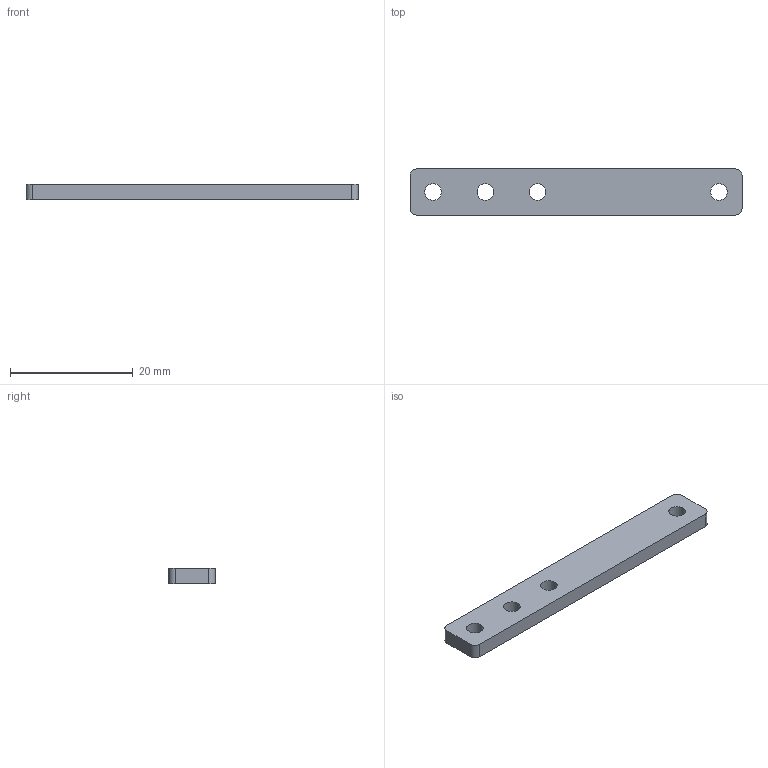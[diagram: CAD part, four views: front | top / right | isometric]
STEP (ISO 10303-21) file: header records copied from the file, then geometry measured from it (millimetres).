
FILE_DESCRIPTION (( 'STEP AP203' ), '1' );
FILE_NAME ('Gimbal Boom Plate (4 clamps RTU) v1.STEP', '2016-10-20T20:51:10', ( 'drhyoo' ), ( '' ), 'SwSTEP 2.0', 'SolidWorks 2016', '' );
FILE_SCHEMA (( 'CONFIG_CONTROL_DESIGN' ));
Length unit declared in the file: millimetre
Products named in the file (1): Gimbal Boom Plate (4 clamps RTU) v1
Bounding box: 54 x 7.5 x 2.5 mm (x, y, z)
Volume: 953.1 mm3; surface area: 1150.5 mm2
Topology: 1 solids, 1 shells, 18 faces, 48 edges, 32 vertices
Faces by surface type: cylinder 12, plane 6
Entity records: 669 total; most frequent: DIRECTION 110, CARTESIAN_POINT 99, ORIENTED_EDGE 96, EDGE_CURVE 48, AXIS2_PLACEMENT_3D 43, VERTEX_POINT 32, EDGE_LOOP 26, VECTOR 24
